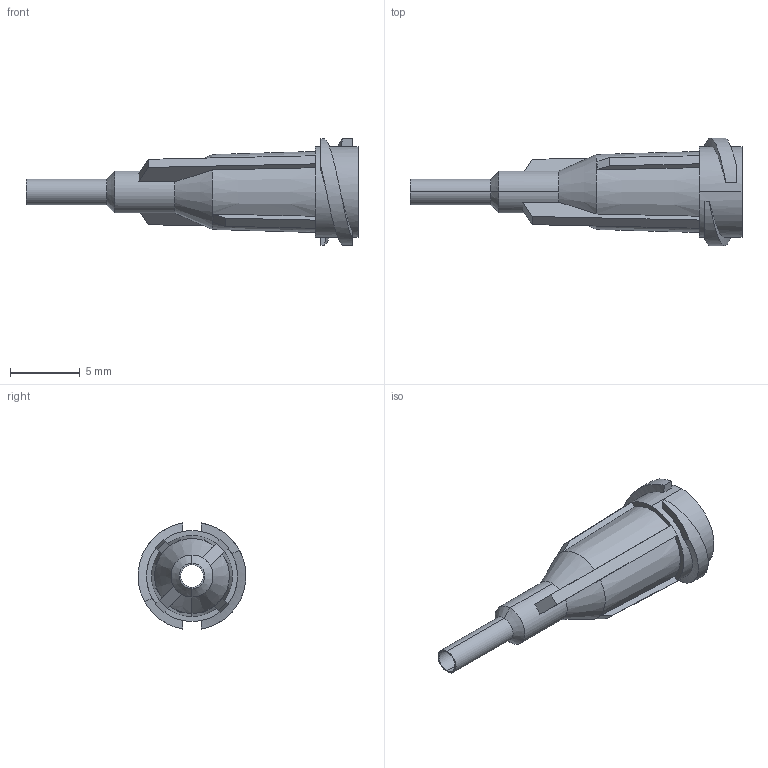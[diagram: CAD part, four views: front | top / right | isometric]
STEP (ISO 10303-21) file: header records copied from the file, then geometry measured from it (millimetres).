
FILE_DESCRIPTION (( 'STEP AP214' ), '1' );
FILE_NAME ('8001115_CUS.STEP', '2022-05-23T11:08:41', ( '' ), ( '' ), 'SwSTEP 2.0', 'SolidWorks 2020', '' );
FILE_SCHEMA (( 'AUTOMOTIVE_DESIGN' ));
Length unit declared in the file: millimetre
Products named in the file (1): 8001115_CUS
Bounding box: 23.72 x 7.7 x 7.59 mm (x, y, z)
Surface area: 630.3 mm2 (no closed solid volume)
Topology: 0 solids, 3 shells, 62 faces, 168 edges, 108 vertices
Faces by surface type: plane 36, cone 12, cylinder 8, bspline 6
Entity records: 2891 total; most frequent: CARTESIAN_POINT 701, ORIENTED_EDGE 312, DIRECTION 302, EDGE_CURVE 168, AXIS2_PLACEMENT_3D 115, VERTEX_POINT 108, LINE 72, VECTOR 72
